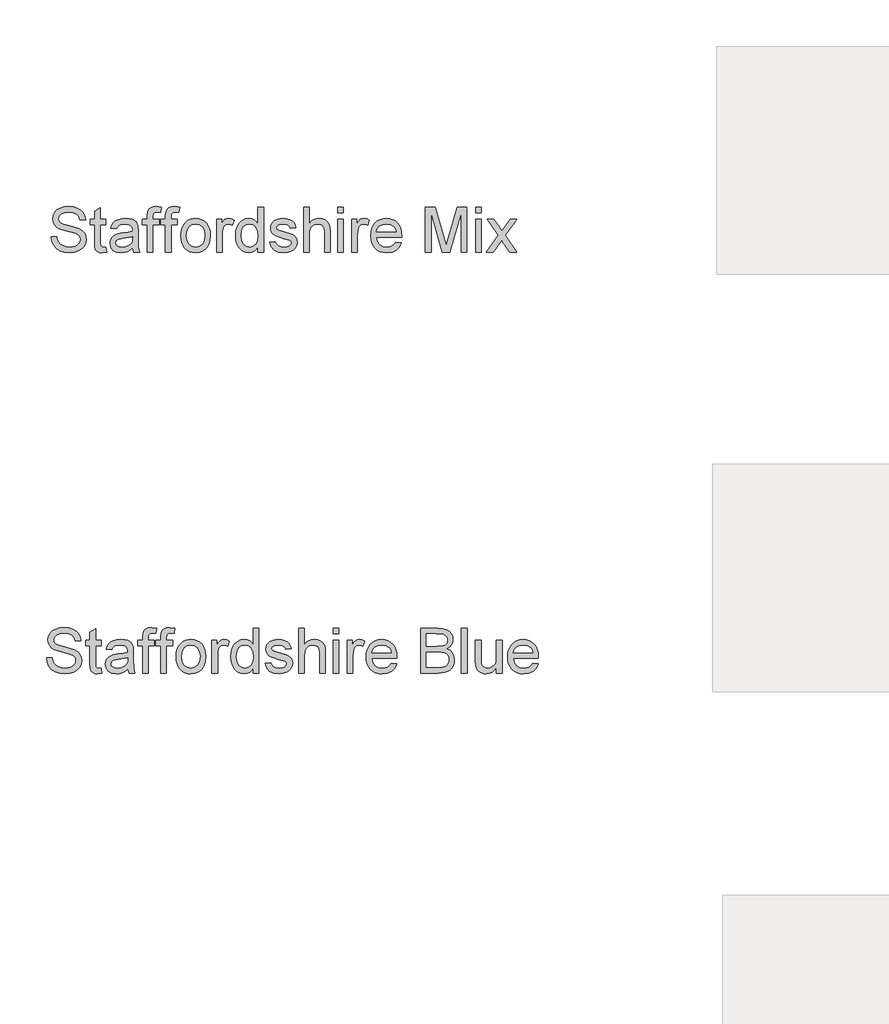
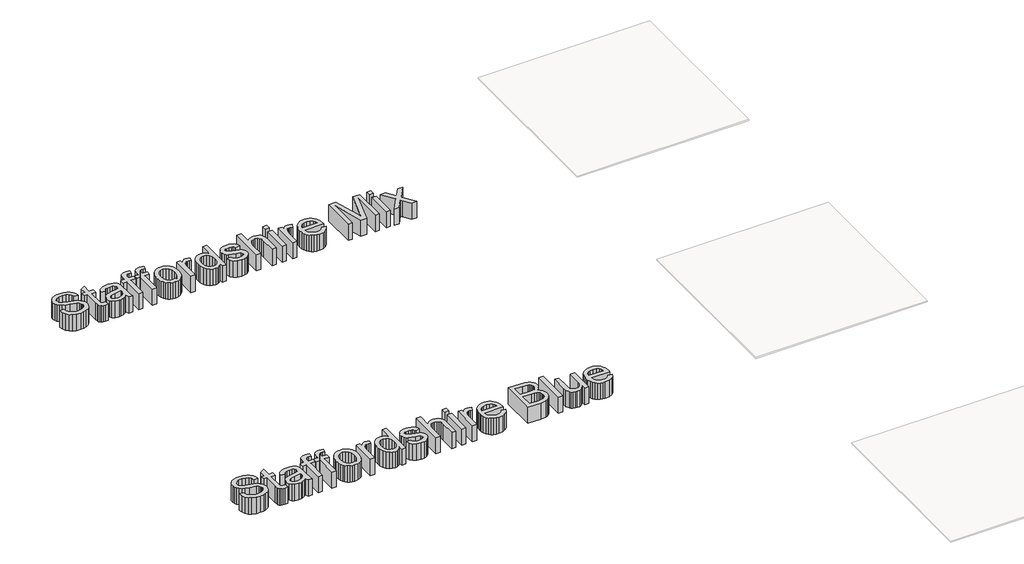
# One storey, part 2 of 4: 2 proxies.
"""IFC4 building model written with IfcOpenShell, lengths in millimetres."""

from ifc_helpers import new_model, si_unit, frame, origin, place, context, project, spatial, polyline, outline, extrude, element, save

model = new_model("IFC4")

# Units and contexts
model_context = context("Model", 3, world=origin())
ifc_project = project(units=[si_unit("LENGTHUNIT", "METRE", prefix="MILLI")], contexts=[model_context])

# Site, building, storey
site = spatial("IfcSite", under=ifc_project)
building = spatial("IfcBuilding", under=site)
storey = spatial("IfcBuildingStorey", under=building, Name="Marley Clay Plain Tile", Elevation=3000.0)

# Proxies
placement = place(None, origin())
element("IfcBuildingElementProxy", 1, Name="600mm Arial", ObjectType="600mm Arial", at=placement, inside=storey, context=model_context, shape_type="SweptSolid", body=[
    extrude(outline(polyline([(-14915.2625787, 940.101674), (-14878.3395018, 940.101674), (-14874.102723, 919.6118904), (-14866.4404633, 903.1425394), (-14854.4873383, 890.071626), (-14837.3779633, 879.7771548), (-14816.4645018, 873.0974673), (-14793.0991172, 870.8709048), (-14772.5282037, 872.5566019), (-14754.5173864, 877.6136933), (-14739.9230355, 885.618501), (-14729.601521, 896.1473471), (-14723.4626989, 908.2356885), (-14721.4164249, 920.9189817), (-14722.9488768, 933.2777558), (-14727.5462326, 943.9598471), (-14736.8851749, 953.0734289), (-14752.6423864, 960.726674), (-14806.4044056, 974.8252317), (-14841.695872, 984.1551596), (-14864.2770018, 993.0343664), (-14882.6574105, 1005.4562414), (-14895.6832518, 1020.5103279), (-14903.4446701, 1037.8721067), (-14906.0318095, 1057.2170587), (-14902.8316893, 1078.8426596), (-14893.2313287, 1099.007924), (-14877.4831316, 1116.0992702), (-14855.8395018, 1128.5031164), (-14829.8599345, 1136.0481885), (-14801.1039249, 1138.5632125), (-14769.9500787, 1135.931001), (-14742.6904633, 1128.0343664), (-14720.2986364, 1115.0355683), (-14703.7481556, 1097.0968664), (-14693.273396, 1075.336049), (-14689.1087326, 1050.8709048), (-14726.0318095, 1050.8709048), (-14732.8106556, 1072.9021548), (-14746.945271, 1088.8035971), (-14769.0306076, 1098.431001), (-14799.6616172, 1101.6401356), (-14831.0137806, 1098.4670587), (-14852.5221941, 1088.9478279), (-14864.962098, 1074.9394144), (-14869.1087326, 1058.2987894), (-14866.1700306, 1044.1100875), (-14857.3539249, 1032.6978279), (-14836.5125787, 1022.493501), (-14797.0654633, 1012.0728279), (-14731.7289249, 993.539174), (-14710.680247, 980.1437414), (-14695.9957518, 963.6112894), (-14687.3689489, 944.1221067), (-14684.493348, 921.8564817), (-14687.8016412, 899.0950635), (-14697.726521, 877.6858087), (-14713.8623383, 859.2603279), (-14735.8034441, 845.4502317), (-14762.1886605, 836.8234289), (-14791.6568095, 833.9478279), (-14827.8316893, 837.0487894), (-14857.6063287, 846.351674), (-14881.3232758, 861.8925394), (-14899.3250787, 883.7074433), (-14910.8815691, 910.2819625), (-14915.2625787, 940.101674)])), frame((0.0, 0.0, 3000.0), z_axis=(0.0, 0.0, 1.0), x_axis=(1.0, 0.0, 0.0)), (0.0, 0.0, 1.0), 150.0),
    extrude(outline(polyline([(-14555.2625787, 869.3564817), (-14550.6471941, 837.4814817), (-14578.2673864, 833.9478279), (-14595.9897422, 835.4802798), (-14609.2048864, 840.0776356), (-14618.5438287, 847.1629721), (-14624.6375787, 856.1593664), (-14627.9909441, 871.6100875), (-14629.1087326, 898.0584048), (-14629.1087326, 1018.5632125), (-14656.8010403, 1018.5632125), (-14656.8010403, 1055.4862894), (-14629.1087326, 1055.4862894), (-14629.1087326, 1108.2026356), (-14592.1856556, 1129.9093664), (-14592.1856556, 1055.4862894), (-14555.2625787, 1055.4862894), (-14555.2625787, 1018.5632125), (-14592.1856556, 1018.5632125), (-14592.1856556, 899.1401356), (-14590.2385403, 880.101674), (-14583.9284441, 873.3588856), (-14571.3443095, 870.8709048), (-14555.2625787, 869.3564817)])), frame((0.0, 0.0, 3000.0), z_axis=(0.0, 0.0, 1.0), x_axis=(1.0, 0.0, 0.0)), (0.0, 0.0, 1.0), 150.0),
    extrude(outline(polyline([(-14379.8779633, 866.2555202), (-14397.5191893, 851.1293183), (-14415.6832518, 841.2314817), (-14434.7848143, 835.7687414), (-14455.2385403, 833.9478279), (-14486.0949105, 838.3288375), (-14508.8563287, 851.4718664), (-14522.8917855, 871.429799), (-14527.570271, 896.2555202), (-14525.8034441, 911.5620106), (-14520.5029633, 925.462251), (-14512.3268816, 937.3612894), (-14501.9332518, 946.664174), (-14476.0798864, 958.7795587), (-14444.132771, 964.3324433), (-14406.3803672, 970.1737894), (-14380.0943095, 977.024751), (-14379.8779633, 985.2459048), (-14382.4200306, 1001.7242702), (-14390.0462326, 1012.5055202), (-14407.101521, 1020.5103279), (-14430.8635403, 1023.1785971), (-14452.8587326, 1021.4027558), (-14468.2193095, 1016.0752317), (-14478.6940691, 1006.2224673), (-14486.0318095, 990.8709048), (-14522.9548864, 995.4862894), (-14516.5456316, 1015.6785971), (-14506.9813287, 1031.5439817), (-14493.3695499, 1043.6773952), (-14474.8178672, 1052.6737894), (-14452.1285643, 1058.2447029), (-14426.1039249, 1060.101674), (-14401.1429874, 1058.461049), (-14381.3563287, 1053.539174), (-14366.4374585, 1046.1383327), (-14356.0798864, 1037.0608087), (-14349.210896, 1025.8378519), (-14344.757771, 1012.0007125), (-14342.9548864, 979.6930202), (-14342.9548864, 933.7555202), (-14341.0798864, 869.6088856), (-14333.7241172, 838.5632125), (-14370.6471941, 838.5632125), (-14379.8779633, 866.2555202)]), holes=[polyline([(-14379.8779633, 940.101674), (-14439.445271, 928.7795587), (-14471.212098, 922.7939817), (-14485.5991172, 913.0584048), (-14490.6471941, 898.851674), (-14487.8977951, 887.8721067), (-14479.649598, 878.8757125), (-14466.0828912, 872.8721067), (-14447.3779633, 870.8709048), (-14427.5462326, 873.0794385), (-14410.0221941, 879.7050394), (-14395.8154633, 889.4676596), (-14385.9356556, 901.087251), (-14381.554646, 913.0584048), (-14380.0943095, 929.6449433), (-14379.8779633, 940.101674)])]), frame((0.0, 0.0, 3000.0), z_axis=(0.0, 0.0, 1.0), x_axis=(1.0, 0.0, 0.0)), (0.0, 0.0, 1.0), 150.0),
    extrude(outline(polyline([(-14282.9548864, 838.5632125), (-14282.9548864, 1018.5632125), (-14315.2625787, 1018.5632125), (-14315.2625787, 1055.4862894), (-14282.9548864, 1055.4862894), (-14282.9548864, 1077.337251), (-14279.0606556, 1108.1305202), (-14271.632771, 1120.4081644), (-14260.1664249, 1130.1257125), (-14244.1207518, 1136.4538375), (-14222.9548864, 1138.5632125), (-14189.2770018, 1134.524751), (-14194.6856556, 1099.9093664), (-14215.9596941, 1101.6401356), (-14229.9951508, 1100.1076837), (-14239.2169056, 1095.5103279), (-14244.3280835, 1086.7302798), (-14246.0318095, 1072.649751), (-14246.0318095, 1055.4862894), (-14204.493348, 1055.4862894), (-14204.493348, 1018.5632125), (-14246.0318095, 1018.5632125), (-14246.0318095, 838.5632125), (-14282.9548864, 838.5632125)])), frame((0.0, 0.0, 3000.0), z_axis=(0.0, 0.0, 1.0), x_axis=(1.0, 0.0, 0.0)), (0.0, 0.0, 1.0), 150.0),
    extrude(outline(polyline([(-14162.9548864, 838.5632125), (-14162.9548864, 1018.5632125), (-14195.2625787, 1018.5632125), (-14195.2625787, 1055.4862894), (-14162.9548864, 1055.4862894), (-14162.9548864, 1077.337251), (-14159.0606556, 1108.1305202), (-14151.632771, 1120.4081644), (-14140.1664249, 1130.1257125), (-14124.1207518, 1136.4538375), (-14102.9548864, 1138.5632125), (-14069.2770018, 1134.524751), (-14074.6856556, 1099.9093664), (-14095.9596941, 1101.6401356), (-14109.9951508, 1100.1076837), (-14119.2169056, 1095.5103279), (-14124.3280835, 1086.7302798), (-14126.0318095, 1072.649751), (-14126.0318095, 1055.4862894), (-14084.493348, 1055.4862894), (-14084.493348, 1018.5632125), (-14126.0318095, 1018.5632125), (-14126.0318095, 838.5632125), (-14162.9548864, 838.5632125)])), frame((0.0, 0.0, 3000.0), z_axis=(0.0, 0.0, 1.0), x_axis=(1.0, 0.0, 0.0)), (0.0, 0.0, 1.0), 150.0),
    extrude(outline(polyline([(-14061.4164249, 947.024751), (-14059.4197302, 975.1182005), (-14053.429646, 999.3264337), (-14043.4461725, 1019.6494505), (-14029.4693095, 1036.087251), (-14015.3977951, 1046.5935611), (-13999.8659441, 1054.0980683), (-13982.8737566, 1058.6007726), (-13964.4212326, 1060.101674), (-13944.05089, 1058.2739998), (-13925.6321701, 1052.7909769), (-13909.1650727, 1043.6526055), (-13894.649598, 1030.8588856), (-13882.8023924, 1014.8425094), (-13874.3401028, 996.0361692), (-13869.262729, 974.4398651), (-13867.570271, 950.0535971), (-13870.5630595, 912.7519144), (-13879.5414249, 884.3564817), (-13894.2439489, 863.0914577), (-13914.4092133, 847.181001), (-13938.3605355, 837.2561212), (-13964.4212326, 833.9478279), (-13985.0890511, 835.7687414), (-14003.6790451, 841.2314817), (-14020.1912145, 850.336049), (-14034.6255595, 863.0824433), (-14046.3465631, 879.2543183), (-14054.7187085, 898.6353279), (-14059.7419958, 921.2254721), (-14061.4164249, 947.024751)]), holes=[polyline([(-14024.493348, 947.0968664), (-14020.2205114, 913.6804), (-14007.4020018, 889.8733087), (-13988.1111364, 875.6215058), (-13964.4212326, 870.8709048), (-13940.8395018, 875.648549), (-13921.5846941, 889.9814817), (-13908.7661845, 914.1040779), (-13904.493348, 948.2507125), (-13908.7932278, 980.6936212), (-13921.6928672, 1004.1761933), (-13940.9747181, 1018.4279962), (-13964.4212326, 1023.1785971), (-13988.1111364, 1018.446025), (-14007.4020018, 1004.2483087), (-14020.2205114, 980.4953039), (-14024.493348, 947.0968664)])]), frame((0.0, 0.0, 3000.0), z_axis=(0.0, 0.0, 1.0), x_axis=(1.0, 0.0, 0.0)), (0.0, 0.0, 1.0), 150.0),
    extrude(outline(polyline([(-13826.0318095, 838.5632125), (-13826.0318095, 1055.4862894), (-13793.7241172, 1055.4862894), (-13793.7241172, 1023.3949433), (-13781.789021, 1042.0007125), (-13770.7914249, 1052.962251), (-13759.757771, 1058.3168183), (-13747.7145018, 1060.101674), (-13729.3250787, 1057.2531164), (-13710.6471941, 1048.7074433), (-13722.9789249, 1015.6064817), (-13735.9596941, 1021.2855683), (-13748.9404633, 1023.1785971), (-13759.9651028, 1021.3576837), (-13769.8178672, 1015.8949433), (-13777.7776028, 1007.2050394), (-13783.1231556, 995.7026356), (-13787.6123383, 975.0776356), (-13789.1087326, 952.5776356), (-13789.1087326, 838.5632125), (-13826.0318095, 838.5632125)])), frame((0.0, 0.0, 3000.0), z_axis=(0.0, 0.0, 1.0), x_axis=(1.0, 0.0, 0.0)), (0.0, 0.0, 1.0), 150.0),
    extrude(outline(polyline([(-13553.7241172, 838.5632125), (-13553.7241172, 873.3949433), (-13564.7712927, 856.1368303), (-13578.1532037, 843.8096067), (-13593.8698504, 836.4132726), (-13611.9212326, 833.9478279), (-13635.7914249, 837.5175394), (-13657.6423864, 848.226674), (-13676.1399826, 865.3270346), (-13689.9500787, 888.070424), (-13698.5498383, 915.5373712), (-13701.4164249, 946.8084048), (-13698.7751989, 977.6918183), (-13690.851521, 1005.5824433), (-13677.6544056, 1028.8937414), (-13659.1928672, 1046.039174), (-13636.8641412, 1056.586049), (-13612.0654633, 1060.101674), (-13594.0005595, 1057.58665), (-13578.0270018, 1050.0415779), (-13564.4873383, 1038.4760731), (-13553.7241172, 1023.899751), (-13553.7241172, 1133.9478279), (-13516.8010403, 1133.9478279), (-13516.8010403, 838.5632125), (-13553.7241172, 838.5632125)]), holes=[polyline([(-13664.493348, 946.9526356), (-13660.3286845, 913.5541981), (-13647.8346941, 889.8011933), (-13629.679646, 875.6034769), (-13608.5318095, 870.8709048), (-13587.3929874, 875.3871308), (-13569.6976749, 888.9358087), (-13557.7175066, 911.7693423), (-13553.7241172, 944.1401356), (-13557.789622, 979.5307606), (-13569.9861364, 1004.0680202), (-13588.1321701, 1018.4009529), (-13610.0462326, 1023.1785971), (-13631.4104153, 1018.5902558), (-13648.9164249, 1004.8252317), (-13660.5991172, 981.1804), (-13664.493348, 946.9526356)])]), frame((0.0, 0.0, 3000.0), z_axis=(0.0, 0.0, 1.0), x_axis=(1.0, 0.0, 0.0)), (0.0, 0.0, 1.0), 150.0),
    extrude(outline(polyline([(-13475.2625787, 903.1785971), (-13438.3395018, 907.7939817), (-13432.5161845, 892.0007125), (-13421.2481556, 880.3901356), (-13404.4632999, 873.2507125), (-13382.0895018, 870.8709048), (-13359.9861364, 873.0523952), (-13344.445271, 879.5968664), (-13335.2505595, 889.0800394), (-13332.1856556, 900.0776356), (-13335.2685883, 909.4886933), (-13344.5173864, 916.664174), (-13382.5221941, 927.1930202), (-13438.1231556, 945.257924), (-13452.1946701, 954.3354481), (-13462.3899826, 966.351674), (-13468.5828912, 980.540376), (-13470.6471941, 996.1353279), (-13468.9885403, 1010.4412173), (-13464.0125787, 1023.6473471), (-13456.1700306, 1035.2308808), (-13445.9116172, 1044.6689817), (-13422.4380595, 1055.5944625), (-13390.6712326, 1060.101674), (-13366.6387806, 1058.289775), (-13345.743348, 1052.8540779), (-13328.9404633, 1044.3264337), (-13317.1856556, 1033.2386933), (-13309.3971941, 1018.7705442), (-13304.493348, 1000.101674), (-13341.4164249, 995.4862894), (-13346.0768816, 1007.1058808), (-13355.2986364, 1015.8588856), (-13369.1718335, 1021.3486692), (-13387.7866172, 1023.1785971), (-13408.9885403, 1021.429799), (-13423.1231556, 1016.1834048), (-13431.0738768, 1008.6112894), (-13433.7241172, 999.8853279), (-13429.3250787, 989.1401356), (-13415.5510403, 980.9910971), (-13383.7481556, 973.1305202), (-13329.5534441, 955.7507125), (-13315.2385403, 947.4394144), (-13304.3851749, 936.0632125), (-13297.5432278, 921.586049), (-13295.2625787, 903.9718664), (-13297.9398624, 885.7627317), (-13305.9717133, 868.6353279), (-13319.0516412, 853.9328039), (-13336.8731556, 842.9983087), (-13358.399598, 836.2104481), (-13382.5943095, 833.9478279), (-13419.8238768, 838.3108087), (-13446.993348, 851.399751), (-13465.1303672, 873.070424), (-13475.2625787, 903.1785971)])), frame((0.0, 0.0, 3000.0), z_axis=(0.0, 0.0, 1.0), x_axis=(1.0, 0.0, 0.0)), (0.0, 0.0, 1.0), 150.0),
    extrude(outline(polyline([(-13253.7241172, 838.5632125), (-13253.7241172, 1133.9478279), (-13216.8010403, 1133.9478279), (-13216.8010403, 1025.3420587), (-13203.2388407, 1040.5493904), (-13188.008973, 1051.4117702), (-13171.1114369, 1057.9291981), (-13152.5462326, 1060.101674), (-13130.2445499, 1057.7308808), (-13111.0798864, 1050.618501), (-13095.9897422, 1039.3234289), (-13085.9116172, 1024.4045587), (-13080.2325306, 1003.9057606), (-13078.3395018, 975.8709048), (-13078.3395018, 838.5632125), (-13115.2625787, 838.5632125), (-13115.2625787, 972.0487894), (-13118.2012806, 995.1617702), (-13127.0173864, 1010.9910971), (-13141.2241172, 1020.1317221), (-13160.3346941, 1023.1785971), (-13175.9386605, 1021.1233087), (-13190.587098, 1014.9574433), (-13202.7205114, 1005.2759529), (-13210.7794056, 992.6737894), (-13215.2956316, 975.9249914), (-13216.8010403, 953.8035971), (-13216.8010403, 838.5632125), (-13253.7241172, 838.5632125)])), frame((0.0, 0.0, 3000.0), z_axis=(0.0, 0.0, 1.0), x_axis=(1.0, 0.0, 0.0)), (0.0, 0.0, 1.0), 150.0),
    extrude(outline(polyline([(-13027.570271, 1097.024751), (-13027.570271, 1133.9478279), (-12990.6471941, 1133.9478279), (-12990.6471941, 1097.024751), (-13027.570271, 1097.024751)])), frame((0.0, 0.0, 3000.0), z_axis=(0.0, 0.0, 1.0), x_axis=(1.0, 0.0, 0.0)), (0.0, 0.0, 1.0), 150.0),
    extrude(outline(polyline([(-13027.570271, 838.5632125), (-13027.570271, 1055.4862894), (-12990.6471941, 1055.4862894), (-12990.6471941, 838.5632125), (-13027.570271, 838.5632125)])), frame((0.0, 0.0, 3000.0), z_axis=(0.0, 0.0, 1.0), x_axis=(1.0, 0.0, 0.0)), (0.0, 0.0, 1.0), 150.0),
    extrude(outline(polyline([(-12935.2625787, 838.5632125), (-12935.2625787, 1055.4862894), (-12902.9548864, 1055.4862894), (-12902.9548864, 1023.3949433), (-12891.0197903, 1042.0007125), (-12880.0221941, 1052.962251), (-12868.9885403, 1058.3168183), (-12856.945271, 1060.101674), (-12838.555848, 1057.2531164), (-12819.8779633, 1048.7074433), (-12832.2096941, 1015.6064817), (-12845.1904633, 1021.2855683), (-12858.1712326, 1023.1785971), (-12869.195872, 1021.3576837), (-12879.0486364, 1015.8949433), (-12887.008372, 1007.2050394), (-12892.3539249, 995.7026356), (-12896.8431076, 975.0776356), (-12898.3395018, 952.5776356), (-12898.3395018, 838.5632125), (-12935.2625787, 838.5632125)])), frame((0.0, 0.0, 3000.0), z_axis=(0.0, 0.0, 1.0), x_axis=(1.0, 0.0, 0.0)), (0.0, 0.0, 1.0), 150.0),
    extrude(outline(polyline([(-12644.9260403, 903.1785971), (-12608.7241172, 898.5632125), (-12621.7679874, 871.2855683), (-12642.5822903, 850.8949433), (-12670.6982758, 838.1846067), (-12705.6471941, 833.9478279), (-12728.5573504, 835.7755022), (-12748.9705114, 841.258525), (-12766.8866773, 850.3968964), (-12782.305848, 863.1906164), (-12794.7051869, 879.2836151), (-12803.5618576, 898.3198231), (-12808.87586, 920.2992401), (-12810.6471941, 945.2218664), (-12808.8578311, 970.9895947), (-12803.4897422, 993.7014337), (-12794.5429273, 1013.3573832), (-12782.0173864, 1029.9574433), (-12766.6387806, 1043.1455442), (-12749.132771, 1052.5656164), (-12729.4993576, 1058.2176596), (-12707.7385403, 1060.101674), (-12686.6785943, 1058.2221668), (-12667.633372, 1052.5836452), (-12650.6028732, 1043.1861091), (-12635.587098, 1030.0295587), (-12623.3297362, 1013.4655563), (-12614.5744778, 993.8456644), (-12609.3213227, 971.1698832), (-12607.570271, 945.4382125), (-12607.7866172, 935.4862894), (-12773.7241172, 935.4862894), (-12767.3328912, 907.8480683), (-12752.4861364, 887.5295587), (-12731.0588528, 875.0355683), (-12704.9260403, 870.8709048), (-12685.274598, 872.7999914), (-12668.7241172, 878.587251), (-12655.274598, 888.5932606), (-12644.9260403, 903.1785971)]), holes=[polyline([(-12773.7241172, 972.4093664), (-12644.493348, 972.4093664), (-12649.4873383, 991.9165779), (-12659.2770018, 1005.8709048), (-12680.8034441, 1018.851674), (-12707.882771, 1023.1785971), (-12732.7715931, 1019.7260731), (-12753.351521, 1009.368501), (-12767.6574105, 993.2236692), (-12773.7241172, 972.4093664)])]), frame((0.0, 0.0, 3000.0), z_axis=(0.0, 0.0, 1.0), x_axis=(1.0, 0.0, 0.0)), (0.0, 0.0, 1.0), 150.0),
    extrude(outline(polyline([(-12450.6471941, 838.5632125), (-12450.6471941, 1133.9478279), (-12387.1135403, 1133.9478279), (-12326.680848, 925.7507125), (-12314.493348, 882.2651356), (-12301.2962326, 929.3564817), (-12241.8731556, 1133.9478279), (-12178.3395018, 1133.9478279), (-12178.3395018, 838.5632125), (-12215.2625787, 838.5632125), (-12215.2625787, 1097.024751), (-12289.4693095, 838.5632125), (-12339.5173864, 838.5632125), (-12413.7241172, 1097.024751), (-12413.7241172, 838.5632125), (-12450.6471941, 838.5632125)])), frame((0.0, 0.0, 3000.0), z_axis=(0.0, 0.0, 1.0), x_axis=(1.0, 0.0, 0.0)), (0.0, 0.0, 1.0), 150.0),
    extrude(outline(polyline([(-12118.3395018, 838.5632125), (-12118.3395018, 1055.4862894), (-12081.4164249, 1055.4862894), (-12081.4164249, 838.5632125), (-12118.3395018, 838.5632125)])), frame((0.0, 0.0, 3000.0), z_axis=(0.0, 0.0, 1.0), x_axis=(1.0, 0.0, 0.0)), (0.0, 0.0, 1.0), 150.0),
    extrude(outline(polyline([(-12118.3395018, 1097.024751), (-12118.3395018, 1133.9478279), (-12081.4164249, 1133.9478279), (-12081.4164249, 1097.024751), (-12118.3395018, 1097.024751)])), frame((0.0, 0.0, 3000.0), z_axis=(0.0, 0.0, 1.0), x_axis=(1.0, 0.0, 0.0)), (0.0, 0.0, 1.0), 150.0),
    extrude(outline(polyline([(-12049.1087326, 838.5632125), (-11970.2145018, 947.601674), (-12044.493348, 1055.4862894), (-12000.070271, 1055.4862894), (-11964.2289249, 1003.5632125), (-11947.4981556, 979.0439817), (-11933.0029633, 999.0920587), (-11892.1856556, 1055.4862894), (-11847.7625787, 1055.4862894), (-11925.7914249, 947.601674), (-11850.6471941, 838.5632125), (-11895.070271, 838.5632125), (-11940.2866172, 904.1160971), (-11948.5798864, 916.087251), (-12004.6856556, 838.5632125), (-12049.1087326, 838.5632125)])), frame((0.0, 0.0, 3000.0), z_axis=(0.0, 0.0, 1.0), x_axis=(1.0, 0.0, 0.0)), (0.0, 0.0, 1.0), 150.0),
])
element("IfcBuildingElementProxy", 2, Name="600mm Arial", ObjectType="600mm Arial", at=placement, inside=storey, context=model_context, shape_type="SweptSolid", body=[
    extrude(outline(polyline([(-14946.0705168, -1832.9497632), (-14909.1474399, -1832.9497632), (-14904.910661, -1853.4395468), (-14897.2484014, -1869.9088978), (-14885.2952764, -1882.9798112), (-14868.1859014, -1893.2742824), (-14847.2724399, -1899.9539699), (-14823.9070552, -1902.1805324), (-14803.3361418, -1900.4948353), (-14785.3253245, -1895.4377439), (-14770.7309735, -1887.4329362), (-14760.4094591, -1876.9040901), (-14754.270637, -1864.8157487), (-14752.2243629, -1852.1324555), (-14753.7568149, -1839.7736814), (-14758.3541706, -1829.0915901), (-14767.6931129, -1819.9780084), (-14783.4503245, -1812.3247632), (-14837.2123437, -1798.2262055), (-14872.50381, -1788.8962776), (-14895.0849399, -1780.0170709), (-14913.4653485, -1767.5951959), (-14926.4911899, -1752.5411093), (-14934.2526081, -1735.1793305), (-14936.8397475, -1715.8343785), (-14933.6396274, -1694.2087776), (-14924.0392668, -1674.0435132), (-14908.2910697, -1656.952167), (-14886.6474399, -1644.5483209), (-14860.6678725, -1637.0032487), (-14831.9118629, -1634.4882247), (-14800.7580168, -1637.1204362), (-14773.4984014, -1645.0170709), (-14751.1065745, -1658.0158689), (-14734.5560937, -1675.9545709), (-14724.0813341, -1697.7153882), (-14719.9166706, -1722.1805324), (-14756.8397475, -1722.1805324), (-14763.6185937, -1700.1492824), (-14777.7532091, -1684.2478401), (-14799.8385456, -1674.6204362), (-14830.4695552, -1671.4113016), (-14861.8217187, -1674.5843785), (-14883.3301322, -1684.1036093), (-14895.770036, -1698.1120228), (-14899.9166706, -1714.7526478), (-14896.9779687, -1728.9413497), (-14888.1618629, -1740.3536093), (-14867.3205168, -1750.5579362), (-14827.8734014, -1760.9786093), (-14762.5368629, -1779.5122632), (-14741.488185, -1792.9076959), (-14726.8036899, -1809.4401478), (-14718.176887, -1828.9293305), (-14715.301286, -1851.1949555), (-14718.6095793, -1873.9563737), (-14728.5344591, -1895.3656285), (-14744.6702764, -1913.7911093), (-14766.6113822, -1927.6012055), (-14792.9965985, -1936.2280084), (-14822.4647475, -1939.1036093), (-14858.6396274, -1936.0026478), (-14888.4142668, -1926.6997632), (-14912.1312139, -1911.1588978), (-14930.1330168, -1889.3439939), (-14941.6895072, -1862.7694747), (-14946.0705168, -1832.9497632)])), frame((0.0, 0.0, 3000.0), z_axis=(0.0, 0.0, 1.0), x_axis=(1.0, 0.0, 0.0)), (0.0, 0.0, 1.0), 150.0),
    extrude(outline(polyline([(-14586.0705168, -1903.6949555), (-14581.4551322, -1935.5699555), (-14609.0753245, -1939.1036093), (-14626.7976802, -1937.5711574), (-14640.0128245, -1932.9738016), (-14649.3517668, -1925.8884651), (-14655.4455168, -1916.8920709), (-14658.7988822, -1901.4413497), (-14659.9166706, -1874.9930324), (-14659.9166706, -1754.4882247), (-14687.6089783, -1754.4882247), (-14687.6089783, -1717.5651478), (-14659.9166706, -1717.5651478), (-14659.9166706, -1664.8488016), (-14622.9935937, -1643.1420709), (-14622.9935937, -1717.5651478), (-14586.0705168, -1717.5651478), (-14586.0705168, -1754.4882247), (-14622.9935937, -1754.4882247), (-14622.9935937, -1873.9113016), (-14621.0464783, -1892.9497632), (-14614.7363822, -1899.6925516), (-14602.1522475, -1902.1805324), (-14586.0705168, -1903.6949555)])), frame((0.0, 0.0, 3000.0), z_axis=(0.0, 0.0, 1.0), x_axis=(1.0, 0.0, 0.0)), (0.0, 0.0, 1.0), 150.0),
    extrude(outline(polyline([(-14410.6859014, -1906.795917), (-14428.3271274, -1921.9221189), (-14446.4911899, -1931.8199555), (-14465.5927524, -1937.2826959), (-14486.0464783, -1939.1036093), (-14516.9028485, -1934.7225997), (-14539.6642668, -1921.5795709), (-14553.6997235, -1901.6216382), (-14558.3782091, -1876.795917), (-14556.6113822, -1861.4894266), (-14551.3109014, -1847.5891862), (-14543.1348197, -1835.6901478), (-14532.7411899, -1826.3872632), (-14506.8878245, -1814.2718785), (-14474.9407091, -1808.7189939), (-14437.1883052, -1802.8776478), (-14410.9022475, -1796.0266862), (-14410.6859014, -1787.8055324), (-14413.2279687, -1771.327167), (-14420.8541706, -1760.545917), (-14437.9094591, -1752.5411093), (-14461.6714783, -1749.8728401), (-14483.6666706, -1751.6486814), (-14499.0272475, -1756.9762055), (-14509.5020072, -1766.8289699), (-14516.8397475, -1782.1805324), (-14553.7628245, -1777.5651478), (-14547.3535697, -1757.3728401), (-14537.7892668, -1741.5074555), (-14524.1774879, -1729.374042), (-14505.6258052, -1720.3776478), (-14482.9365024, -1714.8067343), (-14456.9118629, -1712.9497632), (-14431.9509254, -1714.5903882), (-14412.1642668, -1719.5122632), (-14397.2453966, -1726.9131045), (-14386.8878245, -1735.9906285), (-14380.0188341, -1747.2135853), (-14375.5657091, -1761.0507247), (-14373.7628245, -1793.358417), (-14373.7628245, -1839.295917), (-14371.8878245, -1903.4425516), (-14364.5320552, -1934.4882247), (-14401.4551322, -1934.4882247), (-14410.6859014, -1906.795917)]), holes=[polyline([(-14410.6859014, -1832.9497632), (-14470.2532091, -1844.2718785), (-14502.020036, -1850.2574555), (-14516.4070552, -1859.9930324), (-14521.4551322, -1874.1997632), (-14518.7057331, -1885.1793305), (-14510.457536, -1894.1757247), (-14496.8908293, -1900.1793305), (-14478.1859014, -1902.1805324), (-14458.3541706, -1899.9719987), (-14440.8301322, -1893.3463978), (-14426.6234014, -1883.5837776), (-14416.7435937, -1871.9641862), (-14412.3625841, -1859.9930324), (-14410.9022475, -1843.4064939), (-14410.6859014, -1832.9497632)])]), frame((0.0, 0.0, 3000.0), z_axis=(0.0, 0.0, 1.0), x_axis=(1.0, 0.0, 0.0)), (0.0, 0.0, 1.0), 150.0),
    extrude(outline(polyline([(-14313.7628245, -1934.4882247), (-14313.7628245, -1754.4882247), (-14346.0705168, -1754.4882247), (-14346.0705168, -1717.5651478), (-14313.7628245, -1717.5651478), (-14313.7628245, -1695.7141862), (-14309.8685937, -1664.920917), (-14302.4407091, -1652.6432728), (-14290.9743629, -1642.9257247), (-14274.9286899, -1636.5975997), (-14253.7628245, -1634.4882247), (-14220.0849399, -1638.5266862), (-14225.4935937, -1673.1420709), (-14246.7676322, -1671.4113016), (-14260.8030889, -1672.9437535), (-14270.0248437, -1677.5411093), (-14275.1360216, -1686.3211574), (-14276.8397475, -1700.4016862), (-14276.8397475, -1717.5651478), (-14235.301286, -1717.5651478), (-14235.301286, -1754.4882247), (-14276.8397475, -1754.4882247), (-14276.8397475, -1934.4882247), (-14313.7628245, -1934.4882247)])), frame((0.0, 0.0, 3000.0), z_axis=(0.0, 0.0, 1.0), x_axis=(1.0, 0.0, 0.0)), (0.0, 0.0, 1.0), 150.0),
    extrude(outline(polyline([(-14193.7628245, -1934.4882247), (-14193.7628245, -1754.4882247), (-14226.0705168, -1754.4882247), (-14226.0705168, -1717.5651478), (-14193.7628245, -1717.5651478), (-14193.7628245, -1695.7141862), (-14189.8685937, -1664.920917), (-14182.4407091, -1652.6432728), (-14170.9743629, -1642.9257247), (-14154.9286899, -1636.5975997), (-14133.7628245, -1634.4882247), (-14100.0849399, -1638.5266862), (-14105.4935937, -1673.1420709), (-14126.7676322, -1671.4113016), (-14140.8030889, -1672.9437535), (-14150.0248437, -1677.5411093), (-14155.1360216, -1686.3211574), (-14156.8397475, -1700.4016862), (-14156.8397475, -1717.5651478), (-14115.301286, -1717.5651478), (-14115.301286, -1754.4882247), (-14156.8397475, -1754.4882247), (-14156.8397475, -1934.4882247), (-14193.7628245, -1934.4882247)])), frame((0.0, 0.0, 3000.0), z_axis=(0.0, 0.0, 1.0), x_axis=(1.0, 0.0, 0.0)), (0.0, 0.0, 1.0), 150.0),
    extrude(outline(polyline([(-14092.2243629, -1826.0266862), (-14090.2276682, -1797.9332367), (-14084.2375841, -1773.7250035), (-14074.2541105, -1753.4019867), (-14060.2772475, -1736.9641862), (-14046.2057331, -1726.4578761), (-14030.6738822, -1718.9533689), (-14013.6816947, -1714.4506646), (-13995.2291706, -1712.9497632), (-13974.8588281, -1714.7774374), (-13956.4401081, -1720.2604603), (-13939.9730108, -1729.3988317), (-13925.457536, -1742.1925516), (-13913.6103305, -1758.2089278), (-13905.1480408, -1777.015268), (-13900.070667, -1798.6115721), (-13898.3782091, -1822.9978401), (-13901.3709975, -1860.2995228), (-13910.3493629, -1888.6949555), (-13925.051887, -1909.9599795), (-13945.2171514, -1925.8704362), (-13969.1684735, -1935.795316), (-13995.2291706, -1939.1036093), (-14015.8969891, -1937.2826959), (-14034.4869831, -1931.8199555), (-14050.9991526, -1922.7153882), (-14065.4334975, -1909.9689939), (-14077.1545012, -1893.7971189), (-14085.5266466, -1874.4161093), (-14090.5499338, -1851.8259651), (-14092.2243629, -1826.0266862)]), holes=[polyline([(-14055.301286, -1825.9545709), (-14051.0284495, -1859.3710372), (-14038.2099399, -1883.1781285), (-14018.9190745, -1897.4299314), (-13995.2291706, -1902.1805324), (-13971.6474399, -1897.4028882), (-13952.3926322, -1883.0699555), (-13939.5741225, -1858.9473593), (-13935.301286, -1824.8007247), (-13939.6011658, -1792.357816), (-13952.5008052, -1768.8752439), (-13971.7826562, -1754.623441), (-13995.2291706, -1749.8728401), (-14018.9190745, -1754.6054122), (-14038.2099399, -1768.8031285), (-14051.0284495, -1792.5561334), (-14055.301286, -1825.9545709)])]), frame((0.0, 0.0, 3000.0), z_axis=(0.0, 0.0, 1.0), x_axis=(1.0, 0.0, 0.0)), (0.0, 0.0, 1.0), 150.0),
    extrude(outline(polyline([(-13856.8397475, -1934.4882247), (-13856.8397475, -1717.5651478), (-13824.5320552, -1717.5651478), (-13824.5320552, -1749.6564939), (-13812.5969591, -1731.0507247), (-13801.5993629, -1720.0891862), (-13790.5657091, -1714.7346189), (-13778.5224399, -1712.9497632), (-13760.1330168, -1715.7983209), (-13741.4551322, -1724.3439939), (-13753.7868629, -1757.4449555), (-13766.7676322, -1751.7658689), (-13779.7484014, -1749.8728401), (-13790.7730408, -1751.6937535), (-13800.6258052, -1757.1564939), (-13808.5855408, -1765.8463978), (-13813.9310937, -1777.3488016), (-13818.4202764, -1797.9738016), (-13819.9166706, -1820.4738016), (-13819.9166706, -1934.4882247), (-13856.8397475, -1934.4882247)])), frame((0.0, 0.0, 3000.0), z_axis=(0.0, 0.0, 1.0), x_axis=(1.0, 0.0, 0.0)), (0.0, 0.0, 1.0), 150.0),
    extrude(outline(polyline([(-13584.5320552, -1934.4882247), (-13584.5320552, -1899.6564939), (-13595.5792307, -1916.9146069), (-13608.9611418, -1929.2418305), (-13624.6777884, -1936.6381646), (-13642.7291706, -1939.1036093), (-13666.5993629, -1935.5338978), (-13688.4503245, -1924.8247632), (-13706.9479206, -1907.7244026), (-13720.7580168, -1884.9810132), (-13729.3577764, -1857.514066), (-13732.2243629, -1826.2430324), (-13729.583137, -1795.3596189), (-13721.6594591, -1767.4689939), (-13708.4623437, -1744.1576959), (-13690.0008052, -1727.0122632), (-13667.6720793, -1716.4653882), (-13642.8734014, -1712.9497632), (-13624.8084975, -1715.4647872), (-13608.8349399, -1723.0098593), (-13595.2952764, -1734.5753641), (-13584.5320552, -1749.1516862), (-13584.5320552, -1639.1036093), (-13547.6089783, -1639.1036093), (-13547.6089783, -1934.4882247), (-13584.5320552, -1934.4882247)]), holes=[polyline([(-13695.301286, -1826.0988016), (-13691.1366225, -1859.4972391), (-13678.6426322, -1883.2502439), (-13660.4875841, -1897.4479603), (-13639.3397475, -1902.1805324), (-13618.2009254, -1897.6643064), (-13600.5056129, -1884.1156285), (-13588.5254447, -1861.2820949), (-13584.5320552, -1828.9113016), (-13588.59756, -1793.5206766), (-13600.7940745, -1768.983417), (-13618.9401081, -1754.6504843), (-13640.8541706, -1749.8728401), (-13662.2183533, -1754.4611814), (-13679.7243629, -1768.2262055), (-13691.4070552, -1791.8710372), (-13695.301286, -1826.0988016)])]), frame((0.0, 0.0, 3000.0), z_axis=(0.0, 0.0, 1.0), x_axis=(1.0, 0.0, 0.0)), (0.0, 0.0, 1.0), 150.0),
    extrude(outline(polyline([(-13506.0705168, -1869.8728401), (-13469.1474399, -1865.2574555), (-13463.3241225, -1881.0507247), (-13452.0560937, -1892.6613016), (-13435.2712379, -1899.8007247), (-13412.8974399, -1902.1805324), (-13390.7940745, -1899.999042), (-13375.2532091, -1893.4545709), (-13366.0584975, -1883.9713978), (-13362.9935937, -1872.9738016), (-13366.0765264, -1863.5627439), (-13375.3253245, -1856.3872632), (-13413.3301322, -1845.858417), (-13468.9310937, -1827.7935132), (-13483.0026081, -1818.7159891), (-13493.1979206, -1806.6997632), (-13499.3908293, -1792.5110612), (-13501.4551322, -1776.9161093), (-13499.7964783, -1762.6102199), (-13494.8205168, -1749.4040901), (-13486.9779687, -1737.8205564), (-13476.7195552, -1728.3824555), (-13453.2459975, -1717.4569747), (-13421.4791706, -1712.9497632), (-13397.4467187, -1714.7616622), (-13376.551286, -1720.1973593), (-13359.7484014, -1728.7250035), (-13347.9935937, -1739.8127439), (-13340.2051322, -1754.280893), (-13335.301286, -1772.9497632), (-13372.2243629, -1777.5651478), (-13376.8848197, -1765.9455564), (-13386.1065745, -1757.1925516), (-13399.9797716, -1751.702768), (-13418.5945552, -1749.8728401), (-13439.7964783, -1751.6216382), (-13453.9310937, -1756.8680324), (-13461.8818149, -1764.4401478), (-13464.5320552, -1773.1661093), (-13460.1330168, -1783.9113016), (-13446.3589783, -1792.0603401), (-13414.5560937, -1799.920917), (-13360.3613822, -1817.3007247), (-13346.0464783, -1825.6120228), (-13335.1931129, -1836.9882247), (-13328.3511658, -1851.4653882), (-13326.0705168, -1869.0795709), (-13328.7478004, -1887.2887055), (-13336.7796514, -1904.4161093), (-13349.8595793, -1919.1186334), (-13367.6810937, -1930.0531285), (-13389.207536, -1936.8409891), (-13413.4022475, -1939.1036093), (-13450.6318149, -1934.7406285), (-13477.801286, -1921.6516862), (-13495.9383052, -1899.9810132), (-13506.0705168, -1869.8728401)])), frame((0.0, 0.0, 3000.0), z_axis=(0.0, 0.0, 1.0), x_axis=(1.0, 0.0, 0.0)), (0.0, 0.0, 1.0), 150.0),
    extrude(outline(polyline([(-13284.5320552, -1934.4882247), (-13284.5320552, -1639.1036093), (-13247.6089783, -1639.1036093), (-13247.6089783, -1747.7093785), (-13234.0467788, -1732.5020468), (-13218.816911, -1721.639667), (-13201.919375, -1715.1222391), (-13183.3541706, -1712.9497632), (-13161.0524879, -1715.3205564), (-13141.8878245, -1722.4329362), (-13126.7976802, -1733.7280084), (-13116.7195552, -1748.6468785), (-13111.0404687, -1769.1456766), (-13109.1474399, -1797.1805324), (-13109.1474399, -1934.4882247), (-13146.0705168, -1934.4882247), (-13146.0705168, -1801.0026478), (-13149.0092187, -1777.889667), (-13157.8253245, -1762.0603401), (-13172.0320552, -1752.9197151), (-13191.1426322, -1749.8728401), (-13206.7465985, -1751.9281285), (-13221.395036, -1758.0939939), (-13233.5284495, -1767.7754843), (-13241.5873437, -1780.3776478), (-13246.1035697, -1797.1264459), (-13247.6089783, -1819.2478401), (-13247.6089783, -1934.4882247), (-13284.5320552, -1934.4882247)])), frame((0.0, 0.0, 3000.0), z_axis=(0.0, 0.0, 1.0), x_axis=(1.0, 0.0, 0.0)), (0.0, 0.0, 1.0), 150.0),
    extrude(outline(polyline([(-13058.3782091, -1934.4882247), (-13058.3782091, -1717.5651478), (-13021.4551322, -1717.5651478), (-13021.4551322, -1934.4882247), (-13058.3782091, -1934.4882247)])), frame((0.0, 0.0, 3000.0), z_axis=(0.0, 0.0, 1.0), x_axis=(1.0, 0.0, 0.0)), (0.0, 0.0, 1.0), 150.0),
    extrude(outline(polyline([(-13058.3782091, -1676.0266862), (-13058.3782091, -1639.1036093), (-13021.4551322, -1639.1036093), (-13021.4551322, -1676.0266862), (-13058.3782091, -1676.0266862)])), frame((0.0, 0.0, 3000.0), z_axis=(0.0, 0.0, 1.0), x_axis=(1.0, 0.0, 0.0)), (0.0, 0.0, 1.0), 150.0),
    extrude(outline(polyline([(-12966.0705168, -1934.4882247), (-12966.0705168, -1717.5651478), (-12933.7628245, -1717.5651478), (-12933.7628245, -1749.6564939), (-12921.8277283, -1731.0507247), (-12910.8301322, -1720.0891862), (-12899.7964783, -1714.7346189), (-12887.7532091, -1712.9497632), (-12869.363786, -1715.7983209), (-12850.6859014, -1724.3439939), (-12863.0176322, -1757.4449555), (-12875.9984014, -1751.7658689), (-12888.9791706, -1749.8728401), (-12900.00381, -1751.6937535), (-12909.8565745, -1757.1564939), (-12917.81631, -1765.8463978), (-12923.1618629, -1777.3488016), (-12927.6510456, -1797.9738016), (-12929.1474399, -1820.4738016), (-12929.1474399, -1934.4882247), (-12966.0705168, -1934.4882247)])), frame((0.0, 0.0, 3000.0), z_axis=(0.0, 0.0, 1.0), x_axis=(1.0, 0.0, 0.0)), (0.0, 0.0, 1.0), 150.0),
    extrude(outline(polyline([(-12675.7339783, -1869.8728401), (-12639.5320552, -1874.4882247), (-12652.5759254, -1901.7658689), (-12673.3902283, -1922.1564939), (-12701.5062139, -1934.8668305), (-12736.4551322, -1939.1036093), (-12759.3652884, -1937.275935), (-12779.7784495, -1931.7929122), (-12797.6946153, -1922.6545408), (-12813.113786, -1909.8608209), (-12825.513125, -1893.7678221), (-12834.3697956, -1874.7316141), (-12839.683798, -1852.7521971), (-12841.4551322, -1827.8295709), (-12839.6657692, -1802.0618425), (-12834.2976802, -1779.3500035), (-12825.3508653, -1759.694054), (-12812.8253245, -1743.0939939), (-12797.4467187, -1729.905893), (-12779.9407091, -1720.4858209), (-12760.3072956, -1714.8337776), (-12738.5464783, -1712.9497632), (-12717.4865324, -1714.8292704), (-12698.44131, -1720.467792), (-12681.4108113, -1729.8653281), (-12666.395036, -1743.0218785), (-12654.1376742, -1759.5858809), (-12645.3824158, -1779.2057728), (-12640.1292608, -1801.881554), (-12638.3782091, -1827.6132247), (-12638.5945552, -1837.5651478), (-12804.5320552, -1837.5651478), (-12798.1408293, -1865.2033689), (-12783.2940745, -1885.5218785), (-12761.8667908, -1898.0158689), (-12735.7339783, -1902.1805324), (-12716.082536, -1900.2514459), (-12699.5320552, -1894.4641862), (-12686.082536, -1884.4581766), (-12675.7339783, -1869.8728401)]), holes=[polyline([(-12804.5320552, -1800.6420709), (-12675.301286, -1800.6420709), (-12680.2952764, -1781.1348593), (-12690.0849399, -1767.1805324), (-12711.6113822, -1754.1997632), (-12738.6907091, -1749.8728401), (-12763.5795312, -1753.3253641), (-12784.1594591, -1763.6829362), (-12798.4653485, -1779.827768), (-12804.5320552, -1800.6420709)])]), frame((0.0, 0.0, 3000.0), z_axis=(0.0, 0.0, 1.0), x_axis=(1.0, 0.0, 0.0)), (0.0, 0.0, 1.0), 150.0),
    extrude(outline(polyline([(-12481.4551322, -1934.4882247), (-12481.4551322, -1639.1036093), (-12368.738786, -1639.1036093), (-12337.738185, -1641.2760853), (-12313.5344591, -1647.7935132), (-12294.9827764, -1658.8181526), (-12280.9383052, -1674.5122632), (-12272.0951562, -1692.9738016), (-12269.1474399, -1712.3007247), (-12271.6264062, -1730.0861814), (-12279.0633052, -1746.8079362), (-12291.5122235, -1761.4383449), (-12309.0272475, -1772.9497632), (-12288.1047716, -1783.8752439), (-12272.645036, -1800.4978401), (-12263.098762, -1821.717792), (-12259.9166706, -1846.4353401), (-12262.0891466, -1867.0332968), (-12268.6065745, -1886.1348593), (-12278.333137, -1902.3788497), (-12290.1330168, -1914.4040901), (-12304.583137, -1923.1120228), (-12322.2604206, -1929.4040901), (-12369.6041706, -1934.4882247), (-12481.4551322, -1934.4882247)]), holes=[polyline([(-12444.5320552, -1759.1036093), (-12377.1041706, -1759.1036093), (-12337.7291706, -1755.9305324), (-12323.9461177, -1750.4587776), (-12314.0392668, -1742.264667), (-12308.0627043, -1731.4744026), (-12306.0705168, -1718.2141862), (-12307.9274879, -1705.3415901), (-12313.4984014, -1694.1276478), (-12322.5308533, -1685.374643), (-12334.7724399, -1679.8848593), (-12382.2243629, -1676.0266862), (-12444.5320552, -1676.0266862), (-12444.5320552, -1759.1036093)]), polyline([(-12444.5320552, -1897.5651478), (-12368.8109014, -1897.5651478), (-12341.4070552, -1896.1228401), (-12318.2219591, -1888.0819747), (-12302.8613822, -1871.6757247), (-12298.3451562, -1860.0831766), (-12296.8397475, -1846.795917), (-12298.6065745, -1831.3632247), (-12303.9070552, -1818.0939939), (-12313.1648677, -1807.718393), (-12326.8036899, -1800.9665901), (-12346.1215985, -1797.2616622), (-12372.4166706, -1796.0266862), (-12444.5320552, -1796.0266862), (-12444.5320552, -1897.5651478)])]), frame((0.0, 0.0, 3000.0), z_axis=(0.0, 0.0, 1.0), x_axis=(1.0, 0.0, 0.0)), (0.0, 0.0, 1.0), 150.0),
    extrude(outline(polyline([(-12213.7628245, -1934.4882247), (-12213.7628245, -1639.1036093), (-12176.8397475, -1639.1036093), (-12176.8397475, -1934.4882247), (-12213.7628245, -1934.4882247)])), frame((0.0, 0.0, 3000.0), z_axis=(0.0, 0.0, 1.0), x_axis=(1.0, 0.0, 0.0)), (0.0, 0.0, 1.0), 150.0),
    extrude(outline(polyline([(-11982.9935937, -1934.4882247), (-11982.9935937, -1897.2045709), (-11996.3529687, -1915.5354002), (-12011.9118629, -1928.6288497), (-12029.6702764, -1936.4849194), (-12049.6282091, -1939.1036093), (-12067.6119831, -1937.264667), (-12084.3517668, -1931.7478401), (-12098.3962379, -1923.4545709), (-12108.2940745, -1913.2863016), (-12119.2916706, -1886.0988016), (-12121.4551322, -1851.7718785), (-12121.4551322, -1717.5651478), (-12084.5320552, -1717.5651478), (-12084.5320552, -1834.3920709), (-12082.2964783, -1872.0363016), (-12076.9148677, -1884.593393), (-12067.6931129, -1894.139667), (-12055.2441947, -1900.170316), (-12040.1810937, -1902.1805324), (-12024.2526081, -1900.1252439), (-12009.3517668, -1893.9593785), (-11997.0651081, -1884.2508449), (-11988.9791706, -1871.5675516), (-11984.4899879, -1854.1967584), (-11982.9935937, -1830.4257247), (-11982.9935937, -1717.5651478), (-11946.0705168, -1717.5651478), (-11946.0705168, -1934.4882247), (-11982.9935937, -1934.4882247)])), frame((0.0, 0.0, 3000.0), z_axis=(0.0, 0.0, 1.0), x_axis=(1.0, 0.0, 0.0)), (0.0, 0.0, 1.0), 150.0),
    extrude(outline(polyline([(-11743.426286, -1869.8728401), (-11707.2243629, -1874.4882247), (-11720.2682331, -1901.7658689), (-11741.082536, -1922.1564939), (-11769.1985216, -1934.8668305), (-11804.1474399, -1939.1036093), (-11827.0575961, -1937.275935), (-11847.4707572, -1931.7929122), (-11865.386923, -1922.6545408), (-11880.8060937, -1909.8608209), (-11893.2054326, -1893.7678221), (-11902.0621033, -1874.7316141), (-11907.3761057, -1852.7521971), (-11909.1474399, -1827.8295709), (-11907.3580769, -1802.0618425), (-11901.9899879, -1779.3500035), (-11893.043173, -1759.694054), (-11880.5176322, -1743.0939939), (-11865.1390264, -1729.905893), (-11847.6330168, -1720.4858209), (-11827.9996033, -1714.8337776), (-11806.238786, -1712.9497632), (-11785.1788401, -1714.8292704), (-11766.1336177, -1720.467792), (-11749.1031189, -1729.8653281), (-11734.0873437, -1743.0218785), (-11721.8299819, -1759.5858809), (-11713.0747235, -1779.2057728), (-11707.8215685, -1801.881554), (-11706.0705168, -1827.6132247), (-11706.2868629, -1837.5651478), (-11872.2243629, -1837.5651478), (-11865.833137, -1865.2033689), (-11850.9863822, -1885.5218785), (-11829.5590985, -1898.0158689), (-11803.426286, -1902.1805324), (-11783.7748437, -1900.2514459), (-11767.2243629, -1894.4641862), (-11753.7748437, -1884.4581766), (-11743.426286, -1869.8728401)]), holes=[polyline([(-11872.2243629, -1800.6420709), (-11742.9935937, -1800.6420709), (-11747.9875841, -1781.1348593), (-11757.7772475, -1767.1805324), (-11779.3036899, -1754.1997632), (-11806.3830168, -1749.8728401), (-11831.2718389, -1753.3253641), (-11851.8517668, -1763.6829362), (-11866.1576562, -1779.827768), (-11872.2243629, -1800.6420709)])]), frame((0.0, 0.0, 3000.0), z_axis=(0.0, 0.0, 1.0), x_axis=(1.0, 0.0, 0.0)), (0.0, 0.0, 1.0), 150.0),
])

save(model, "model.ifc")
